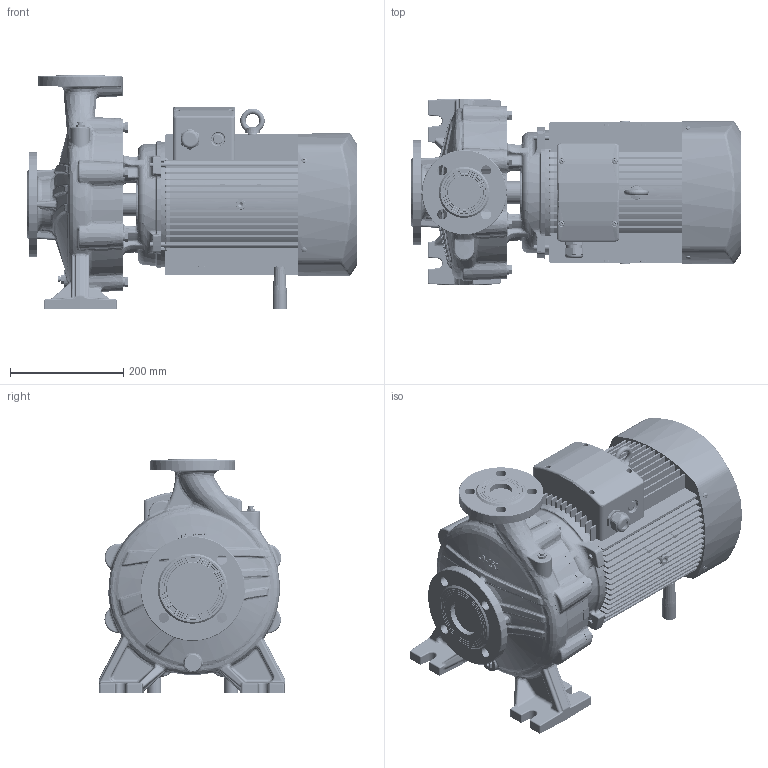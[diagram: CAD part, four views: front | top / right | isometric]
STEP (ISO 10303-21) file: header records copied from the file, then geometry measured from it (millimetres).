
FILE_DESCRIPTION (( 'STEP AP203' ), '1' );
FILE_NAME ('TST40-250-9.2 安装尺寸图.STEP', '2026-04-27T09:27:24', ( '微软用户' ), ( '微软中国' ), 'SwSTEP 2.0', 'SolidWorks 2020', '' );
FILE_SCHEMA (( 'CONFIG_CONTROL_DESIGN' ));
Products named in the file (1): TST40-250-9.2 假蚾喜渡芞
Bounding box: 583.5 x 330.62 x 415.14 mm (x, y, z)
Volume: 27960206.6 mm3; surface area: 1463464.5 mm2
Topology: 1 solids, 9 shells, 4540 faces, 11044 edges, 6785 vertices
Faces by surface type: plane 1438, cylinder 1338, bspline 1011, cone 387, torus 305, sphere 61
Entity records: 193668 total; most frequent: CARTESIAN_POINT 94558, ORIENTED_EDGE 21754, DIRECTION 19355, EDGE_CURVE 10877, AXIS2_PLACEMENT_3D 7856, VERTEX_POINT 6756, EDGE_LOOP 4975, FACE_OUTER_BOUND 4527
